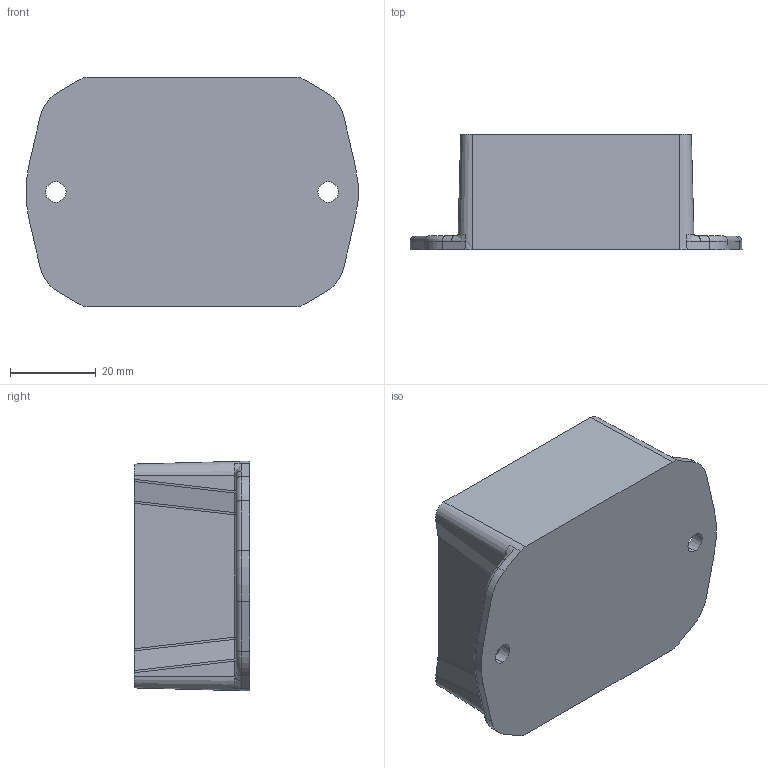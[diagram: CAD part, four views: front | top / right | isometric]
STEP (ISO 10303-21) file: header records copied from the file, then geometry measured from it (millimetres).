
FILE_DESCRIPTION (( 'STEP AP214' ), '1' );
FILE_NAME ('BX-2210BXX.STEP', '2013-09-12T13:53:27', ( 'Designer2010' ), ( '' ), 'SwSTEP 2.0', 'SolidWorks 2013', '' );
FILE_SCHEMA (( 'AUTOMOTIVE_DESIGN' ));
Length unit declared in the file: inch
Products named in the file (1): BX-2210BXX
Bounding box: 77.41 x 26.92 x 53.61 mm (x, y, z)
Volume: 20525.9 mm3; surface area: 17770.2 mm2
Topology: 1 solids, 1 shells, 99 faces, 283 edges, 187 vertices
Faces by surface type: cylinder 34, plane 29, bspline 16, cone 14, torus 6
Entity records: 8409 total; most frequent: CARTESIAN_POINT 4981, ORIENTED_EDGE 566, DIRECTION 430, EDGE_CURVE 283, VERTEX_POINT 187, AXIS2_PLACEMENT_3D 154, LINE 122, VECTOR 122
